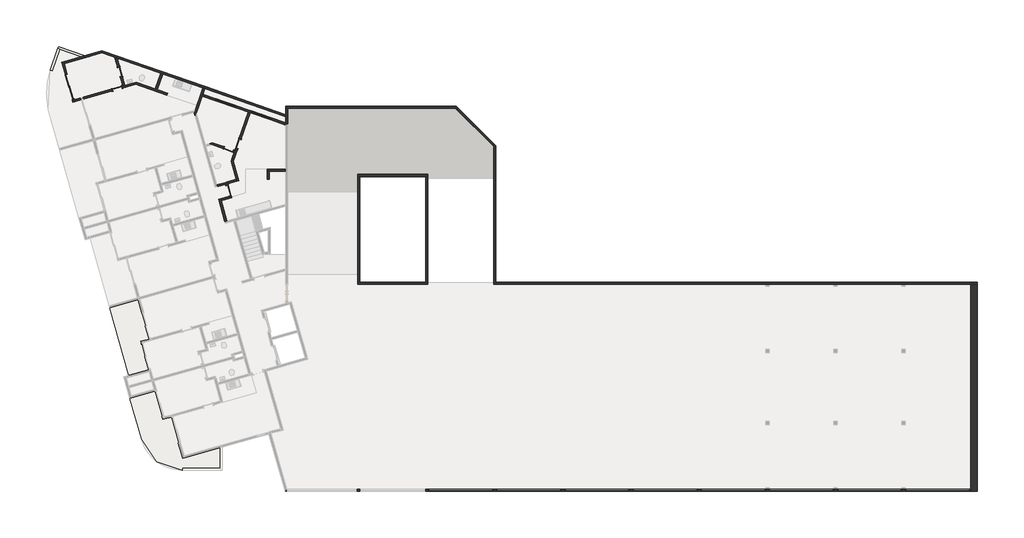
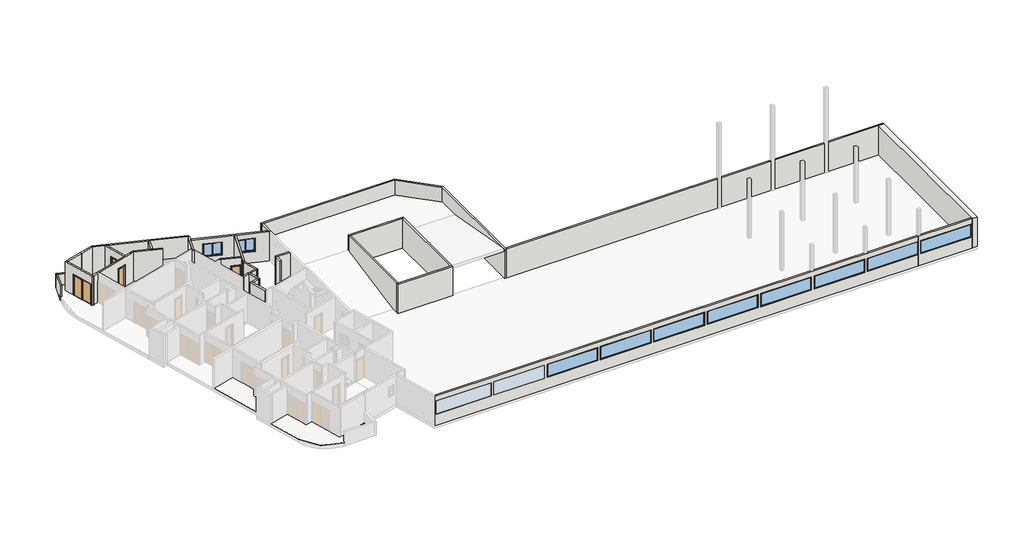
# One storey, part 3 of 4: 35 walls, 10 windows, 6 doors, 2 slabs.
"""IFC4 building model written with IfcOpenShell, lengths in millimetres."""

from ifc_helpers import new_model, si_unit, point, frame, frame_2d, origin, place, context, project, spatial, polyline, circle_curve, trimmed, segment, composite_curve, outline, extrude, faceted_brep, transform, mapped, element, save
from components import p2_80cm_9d4be4ef, p3_70cm_ef4d15e3, p3_70cm_0a698c7c, p4_correr_200cm_eaaa0877, jx_160cm_e9e36a0c, m_fixo1_jf_4_75m_a83b1cd6

model = new_model("IFC4")

# Units and contexts
model_context = context("Model", 3, world=origin())
ifc_project = project(units=[si_unit("LENGTHUNIT", "METRE", prefix="MILLI")], contexts=[model_context])

# Site, building, storey
site = spatial("IfcSite", under=ifc_project)
building = spatial("IfcBuilding", under=site)
storey = spatial("IfcBuildingStorey", under=building, Name="Garagem 3", Elevation=42050.0)

# Doors
placement = place(None, origin())
p2_80cm_shape = p2_80cm_9d4be4ef(model_context)
element("IfcDoor", 1, ObjectType="M_Folha única1 : P2 - 80CM", at=placement, inside=storey, context=model_context, shape_type="MappedRepresentation", body=[
    mapped(p2_80cm_shape, transform((-79349.4097406, 25479.1041247, 42050.0), x_axis=(-0.27176796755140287, 0.962362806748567, 0.0), y_axis=(-0.962362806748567, -0.27176796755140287, 0.0), z_axis=(0.0, 0.0, 1.0))),
])
p3_70cm_shape = p3_70cm_ef4d15e3(model_context)
element("IfcDoor", 2, ObjectType="M_Folha única1 : P3 - 70CM", at=placement, inside=storey, context=model_context, shape_type="MappedRepresentation", body=[
    mapped(p3_70cm_shape, transform((-87513.806232, 32980.5300491, 42050.0), x_axis=(0.9623628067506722, 0.2717679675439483, 0.0), y_axis=(-0.2717679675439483, 0.9623628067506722, 0.0), z_axis=(0.0, 0.0, 1.0))),
])
p3_70cm_2_shape = p3_70cm_0a698c7c(model_context)
element("IfcDoor", 3, ObjectType="M_Folha única1 : P3 - 70CM", at=placement, inside=storey, context=model_context, shape_type="MappedRepresentation", body=[
    mapped(p3_70cm_2_shape, transform((-87314.304722, 34205.8663896, 42050.0), x_axis=(-0.2717679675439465, 0.9623628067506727, 0.0), y_axis=(-0.9623628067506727, -0.2717679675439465, 0.0), z_axis=(0.0, 0.0, 1.0))),
])
element("IfcDoor", 4, ObjectType="M_Folha única1 : P3 - 70CM", at=placement, inside=storey, context=model_context, shape_type="MappedRepresentation", body=[
    mapped(p3_70cm_2_shape, transform((-79346.1223746, 28509.6973665, 42050.0), x_axis=(0.9449109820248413, -0.32732741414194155, 0.0), y_axis=(0.32732741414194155, 0.9449109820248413, 0.0), z_axis=(0.0, 0.0, 1.0))),
])
element("IfcDoor", 5, ObjectType="M_Folha única1 : P3 - 70CM", at=placement, inside=storey, context=model_context, shape_type="MappedRepresentation", body=[
    mapped(p3_70cm_2_shape, transform((-78626.5662556, 28921.8732895, 42050.0), x_axis=(-0.32732741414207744, -0.9449109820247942, 0.0), y_axis=(0.9449109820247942, -0.32732741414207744, 0.0), z_axis=(0.0, 0.0, 1.0))),
])
p4_correr_200cm_shape = p4_correr_200cm_eaaa0877(model_context)
element("IfcDoor", 6, ObjectType="Porta de correr dupla envidraçada sem revestimento : P4 - CORRER - 200CM", at=placement, inside=storey, context=model_context, shape_type="MappedRepresentation", body=[
    mapped(p4_correr_200cm_shape, transform((-91005.8131296, 33111.4415743, 42050.0), x_axis=(0.2717679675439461, -0.9623628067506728, 0.0), y_axis=(0.9623628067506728, 0.2717679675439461, 0.0), z_axis=(0.0, 0.0, 1.0))),
])

# Slabs
element("IfcSlab", 7, ObjectType="TZ_Piso de Áreas Molhadas", at=placement, inside=storey, context=model_context, shape_type="SweptSolid", body=[
    extrude(outline(composite_curve([segment(polyline([(-79945.4990038, 5119.4122055), (-82713.5540687, 5119.4122055), (-82713.5540687, 4969.4122055), (-82751.3896972, 4969.4122055)]), True, "CONTINUOUS"), segment(trimmed(circle_curve(frame_2d((-82751.3896972, 8069.4122055)), 3100.0), [point((-82751.3896972, 4969.4122055))], [point((-85734.7143981, 7226.9315061))], False, "CARTESIAN"), True, "CONTINUOUS"), segment(polyline([(-85734.7143981, 7226.9315061), (-86588.8282733, 10251.4506708), (-84772.9735093, 10764.2419177), (-84188.6722855, 8695.1618243), (-83566.957766, 8870.7319029), (-82710.8885369, 5839.2889958), (-79945.4990038, 6620.2256515), (-79945.4990038, 5119.4122055)]), True, "CONTINUOUS")], self_intersect=False)), frame((0.0, 0.0, 42050.0), z_axis=(0.0, 0.0, 1.0), x_axis=(1.0, 0.0, 0.0)), (0.0, 0.0, 1.0), 20.0),
])
element("IfcSlab", 8, ObjectType="TZ_Piso de Áreas Molhadas", at=placement, inside=storey, context=model_context, shape_type="SweptSolid", body=[
    extrude(outline(polyline([(-85183.9771729, 14596.790603), (-85805.6917697, 14421.2205257), (-85221.3906395, 12352.1404912), (-86668.7560772, 11943.4094383), (-88068.36111, 16899.5778931), (-85999.2810755, 17483.8790233), (-85183.9771729, 14596.790603)])), frame((0.0, 0.0, 42050.0), z_axis=(0.0, 0.0, 1.0), x_axis=(1.0, 0.0, 0.0)), (0.0, 0.0, 1.0), 20.0),
])

# Walls
element("IfcWall", 9, ObjectType="Básica .15 - Externa", at=placement, inside=storey, context=model_context, shape_type="Brep", body=[
    faceted_brep([(-88662.6343714, 35591.588263, 42050.0), (-87688.240739, 35254.0477389, 42050.0), (-87515.4733556, 35194.1992432, 42050.0), (-84326.6881589, 34089.5694606, 42050.0), (-84184.9515116, 34040.4703485, 42050.0), (-81226.8582774, 33015.7547641, 42050.0), (-81156.3583355, 32991.3328194, 42050.0), (-81156.3583355, 32991.3328194, 43350.0), (-81085.1216301, 32966.655652, 43350.0), (-81085.1216301, 32966.655652, 44650.0), (-81156.3583355, 32991.3328194, 44650.0), (-81156.3583355, 32991.3328194, 44950.0), (-81226.8582774, 33015.7547641, 44950.0), (-84184.9515116, 34040.4703485, 44950.0), (-84326.6881589, 34089.5694606, 44950.0), (-87515.4733556, 35194.1992432, 44950.0), (-87688.240739, 35254.0477389, 44950.0), (-88662.6343714, 35591.588263, 44950.0), (-88658.0562773, 35748.7474739, 42050.0), (-88658.0562773, 35748.7474739, 44950.0), (-81107.2592234, 33133.0694667, 44950.0), (-81107.2592234, 33133.0694667, 44650.0), (-81036.022518, 33108.3922993, 44650.0), (-81036.022518, 33108.3922993, 43350.0), (-81107.2592234, 33133.0694667, 43350.0), (-81107.2592234, 33133.0694667, 42050.0)], [[[0, 1, 2, 3, 4, 5, 6, 7, 8, 9, 10, 11, 12, 13, 14, 15, 16, 17]], [[18, 19, 20, 21, 22, 23, 24, 25]], [[6, 5, 4, 3, 2, 1, 0, 18, 25]], [[17, 16, 15, 14, 13, 12, 11, 20, 19]], [[0, 17, 19, 18]], [[7, 6, 25, 24]], [[23, 8, 7, 24]], [[11, 10, 21, 20]], [[21, 10, 9, 22]], [[9, 8, 23, 22]]]),
])
element("IfcWall", 10, ObjectType="Básica .15 -  Interna", at=placement, inside=storey, context=model_context, shape_type="Brep", body=[
    faceted_brep([(-81789.2550074, 30934.0017027, 42050.0), (-81703.3880158, 31181.8778654, 42050.0), (-81272.8781344, 32424.6503839, 42050.0), (-81223.7790223, 32566.3870312, 42050.0), (-81085.1216301, 32966.655652, 42050.0), (-81085.1216301, 32966.655652, 43350.0), (-81085.1216301, 32966.655652, 44650.0), (-81085.1216301, 32966.655652, 44950.0), (-81223.7790223, 32566.3870312, 44950.0), (-81272.8781344, 32424.6503839, 44950.0), (-81703.3880158, 31181.8778654, 44950.0), (-81789.2550074, 30934.0017027, 44950.0), (-81860.5472267, 31186.4559595, 42050.0), (-81860.5472267, 31186.4559595, 44950.0), (-81845.4155775, 31230.1371819, 44950.0), (-81785.5670817, 31402.9045654, 44950.0), (-81226.8582774, 33015.7547641, 44950.0), (-81226.8582774, 33015.7547641, 42050.0), (-81785.5670817, 31402.9045654, 42050.0), (-81845.4155775, 31230.1371819, 42050.0), (-81156.3583355, 32991.3328194, 42050.0), (-81156.3583355, 32991.3328194, 44950.0)], [[[0, 1, 2, 3, 4, 5, 6, 7, 8, 9, 10, 11]], [[12, 13, 14, 15, 16, 17, 18, 19]], [[4, 3, 2, 1, 0, 12, 19, 18, 17, 20]], [[11, 10, 9, 8, 7, 21, 16, 15, 14, 13]], [[0, 11, 13, 12]], [[4, 20, 17, 16, 21, 7, 6, 5]]]),
])
element("IfcWall", 11, ObjectType="Básica .15 -  Interna", at=placement, inside=storey, context=model_context, shape_type="Brep", body=[
    faceted_brep([(-91449.9950574, 34960.3135045, 44950.0), (-91409.2298622, 34815.9590835, 44950.0), (-90661.8679515, 32169.4613651, 44950.0), (-90621.1027564, 32025.1069441, 44950.0), (-90621.1027564, 32025.1069441, 42050.0), (-90661.8679515, 32169.4613651, 42050.0), (-90661.8679515, 32169.4613651, 44150.0), (-91205.4038866, 34094.1869786, 44150.0), (-91205.4038866, 34094.1869786, 42050.0), (-91409.2298622, 34815.9590835, 42050.0), (-91449.9950574, 34960.3135045, 42050.0), (-90765.4571774, 31984.341749, 44950.0), (-91594.3494784, 34919.5483093, 44950.0), (-91594.3494784, 34919.5483093, 42050.0), (-91349.7583076, 34053.4217835, 42050.0), (-91349.7583076, 34053.4217835, 44150.0), (-90806.2223725, 32128.69617, 44150.0), (-90806.2223725, 32128.69617, 42050.0), (-90765.4571774, 31984.341749, 42050.0)], [[[0, 1, 2, 3, 4, 5, 6, 7, 8, 9, 10]], [[11, 12, 13, 14, 15, 16, 17, 18]], [[4, 18, 17, 5]], [[13, 10, 9, 8, 14]], [[3, 2, 1, 0, 12, 11]], [[4, 3, 11, 18]], [[16, 6, 5, 17]], [[6, 16, 15, 7]], [[7, 15, 14, 8]], [[0, 10, 13, 12]]]),
])
element("IfcWall", 12, ObjectType="Básica .15 - Externa", at=placement, inside=storey, context=model_context, shape_type="Brep", body=[
    faceted_brep([(-91871.4376954, 35923.0920443, 41750.0), (-91729.7010481, 35873.9929322, 41750.0), (-90151.0501028, 35327.1311202, 41750.0), (-90151.0501028, 35327.1311202, 43150.0), (-91729.7010481, 35873.9929322, 43150.0), (-91871.4376954, 35923.0920443, 43150.0), (-91822.3385833, 36064.8286916, 41750.0), (-91822.3385833, 36064.8286916, 43150.0), (-89898.595846, 35398.4233395, 43150.0), (-89898.595846, 35398.4233395, 41750.0)], [[[0, 1, 2, 3, 4, 5]], [[6, 7, 8, 9]], [[2, 1, 0, 6, 9]], [[5, 4, 3, 8, 7]], [[0, 5, 7, 6]], [[3, 2, 9, 8]]]),
])
element("IfcWall", 13, ObjectType="Básica .15 - Externa", at=placement, inside=storey, context=model_context, shape_type="SweptSolid", body=[
    extrude(outline(polyline([(-91729.7010481, 35873.9929322), (-92280.2794148, 34284.6132387), (-92422.0160621, 34333.7123509), (-91871.4376954, 35923.0920443), (-91729.7010481, 35873.9929322)])), frame((0.0, 0.0, 41750.0), z_axis=(0.0, 0.0, 1.0), x_axis=(1.0, 0.0, 0.0)), (0.0, 0.0, 1.0), 1400.0),
])
element("IfcWall", 14, ObjectType="Básica .15 -  Interna", at=placement, inside=storey, context=model_context, shape_type="Brep", body=[
    faceted_brep([(-80073.6755954, 24858.9302618, 42050.0), (-79611.6700506, 23222.9134903, 42050.0), (-79611.6700506, 23222.9134903, 44950.0), (-80073.6755954, 24858.9302618, 44950.0), (-79929.3211744, 24899.695457, 42050.0), (-79929.3211744, 24899.695457, 44950.0), (-79888.5559793, 24755.3410359, 44950.0), (-79467.3156296, 23263.6786855, 44950.0), (-79467.3156296, 23263.6786855, 42050.0), (-79888.5559793, 24755.3410359, 42050.0)], [[[0, 1, 2, 3]], [[4, 5, 6, 7, 8, 9]], [[1, 0, 4, 9, 8]], [[3, 2, 7, 6, 5]], [[0, 3, 5, 4]], [[2, 1, 8, 7]]]),
])
element("IfcWall", 15, ObjectType="Básica .15 -  Interna", at=placement, inside=storey, context=model_context, shape_type="Brep", body=[
    faceted_brep([(-79888.5559793, 24755.3410359, 42050.0), (-79272.1145689, 24929.4219834, 42050.0), (-79272.1145689, 24929.4219834, 44950.0), (-79888.5559793, 24755.3410359, 44950.0), (-79929.3211744, 24899.695457, 42050.0), (-79929.3211744, 24899.695457, 44950.0), (-79312.8797641, 25073.7764044, 44950.0), (-79312.8797641, 25073.7764044, 44150.0), (-79312.8797641, 25073.7764044, 42050.0)], [[[0, 1, 2, 3]], [[4, 5, 6, 7, 8]], [[1, 0, 4, 8]], [[3, 2, 6, 5]], [[0, 3, 5, 4]], [[2, 1, 8, 7, 6]]]),
])
element("IfcWall", 16, ObjectType="Básica .15 -  Interna", at=placement, inside=storey, context=model_context, shape_type="Brep", body=[
    faceted_brep([(-79598.23613, 26084.2573515, 42050.0), (-79557.4709349, 25939.9029305, 42050.0), (-79530.2941381, 25843.6666498, 42050.0), (-79530.2941381, 25843.6666498, 44150.0), (-79312.8797641, 25073.7764044, 44150.0), (-79312.8797641, 25073.7764044, 42050.0), (-79272.1145689, 24929.4219834, 42050.0), (-79272.1145689, 24929.4219834, 44950.0), (-79312.8797641, 25073.7764044, 44950.0), (-79557.4709349, 25939.9029305, 44950.0), (-79598.23613, 26084.2573515, 44950.0), (-79385.9397171, 25884.4318449, 44150.0), (-79385.9397171, 25884.4318449, 42050.0), (-79413.1165138, 25980.6681256, 42050.0), (-79453.881709, 26125.0225466, 42050.0), (-79453.881709, 26125.0225466, 44950.0), (-79413.1165138, 25980.6681256, 44950.0), (-79127.7601479, 24970.1871785, 44950.0), (-79127.7601479, 24970.1871785, 42050.0), (-79168.5253431, 25114.5415995, 42050.0), (-79168.5253431, 25114.5415995, 44150.0)], [[[0, 1, 2, 3, 4, 5, 6, 7, 8, 9, 10]], [[11, 12, 13, 14, 15, 16, 17, 18, 19, 20]], [[19, 18, 6, 5]], [[14, 13, 12, 2, 1, 0]], [[10, 9, 8, 7, 17, 16, 15]], [[7, 6, 18, 17]], [[0, 10, 15, 14]], [[3, 2, 12, 11]], [[4, 3, 11, 20]], [[5, 4, 20, 19]]]),
])
element("IfcWall", 17, ObjectType="Básica .15 - Externa", at=placement, inside=storey, context=model_context, shape_type="SweptSolid", body=[
    extrude(outline(polyline([(-89921.2674906, 35392.0209445), (-88658.0562773, 35748.7474739), (-88662.6343714, 35591.588263), (-89880.5022955, 35247.6665235), (-89921.2674906, 35392.0209445)])), frame((0.0, 0.0, 42050.0), z_axis=(0.0, 0.0, 1.0), x_axis=(1.0, 0.0, 0.0)), (0.0, 0.0, 1.0), 2900.0),
])
element("IfcWall", 18, ObjectType="Básica .15 -  Interna", at=placement, inside=storey, context=model_context, shape_type="Brep", body=[
    faceted_brep([(-90184.5077758, 32304.2662473, 42050.0), (-90661.8679515, 32169.4613651, 42050.0), (-90661.8679515, 32169.4613651, 44150.0), (-90661.8679515, 32169.4613651, 44950.0), (-90184.5077758, 32304.2662473, 44950.0), (-90143.7425806, 32159.9118263, 42050.0), (-90143.7425806, 32159.9118263, 44150.0), (-90143.7425806, 32159.9118263, 44950.0), (-90621.1027564, 32025.1069441, 44950.0), (-90621.1027564, 32025.1069441, 42050.0)], [[[0, 1, 2, 3, 4]], [[5, 6, 7, 8, 9]], [[1, 0, 5, 9]], [[4, 3, 8, 7]], [[0, 4, 7, 6, 5]], [[3, 2, 1, 9, 8]]]),
])
element("IfcWall", 19, ObjectType="Básica .15 -  Interna", at=placement, inside=storey, context=model_context, shape_type="SweptSolid", body=[
    extrude(outline(polyline([(-79557.4709349, 25939.9029305), (-80173.9123452, 25765.821983), (-80214.6775403, 25910.176404), (-79598.23613, 26084.2573515), (-79557.4709349, 25939.9029305)])), frame((0.0, 0.0, 42050.0), z_axis=(0.0, 0.0, 1.0), x_axis=(1.0, 0.0, 0.0)), (0.0, 0.0, 1.0), 2900.0),
])
element("IfcWall", 20, ObjectType="Básica .15 -  Interna", at=placement, inside=storey, context=model_context, shape_type="Brep", body=[
    faceted_brep([(-81272.8781344, 32424.6503839, 42050.0), (-77897.5766162, 31255.4093243, 42050.0), (-77755.8399689, 31206.3102121, 42050.0), (-75147.8282189, 30302.8666514, 42050.0), (-75147.8282189, 30302.8666514, 44950.0), (-77755.8399689, 31206.3102121, 44950.0), (-77897.5766162, 31255.4093243, 44950.0), (-81272.8781344, 32424.6503839, 44950.0), (-78829.2985897, 31578.1679228, 43150.0), (-80341.1561609, 32101.8917854, 43150.0), (-80341.1561609, 32101.8917854, 44450.0), (-78829.2985897, 31578.1679228, 44450.0), (-76243.9823976, 30682.5863495, 43150.0), (-77755.8399689, 31206.3102121, 43150.0), (-77755.8399689, 31206.3102121, 44450.0), (-76243.9823976, 30682.5863495, 44450.0), (-81223.7790223, 32566.3870312, 42050.0), (-81223.7790223, 32566.3870312, 44950.0), (-75147.8282189, 30461.6117638, 44950.0), (-75147.8282189, 30461.6117638, 42050.0), (-78780.1994776, 31719.9045701, 43150.0), (-78780.1994776, 31719.9045701, 44450.0), (-80292.0570488, 32243.6284327, 44450.0), (-80292.0570488, 32243.6284327, 43150.0), (-76194.8832855, 30824.3229968, 43150.0), (-76194.8832855, 30824.3229968, 44450.0), (-77706.7408568, 31348.0468595, 44450.0), (-77706.7408568, 31348.0468595, 43150.0), (-75147.8282189, 30356.258394, 42050.0), (-75147.8282189, 30356.258394, 44950.0)], [[[0, 1, 2, 3, 4, 5, 6, 7], [8, 9, 10, 11], [12, 13, 14, 15]], [[16, 17, 18, 19], [20, 21, 22, 23], [24, 25, 26, 27]], [[3, 2, 1, 0, 16, 19, 28]], [[7, 6, 5, 4, 29, 18, 17]], [[0, 7, 17, 16]], [[21, 20, 8, 11]], [[22, 21, 11, 10]], [[23, 22, 10, 9]], [[20, 23, 9, 8]], [[25, 24, 12, 15]], [[26, 25, 15, 14]], [[27, 26, 14, 13]], [[24, 27, 13, 12]], [[4, 3, 28, 19, 18, 29]]]),
])
element("IfcWall", 21, ObjectType="Básica .15 - Externa", at=placement, inside=storey, context=model_context, shape_type="Brep", body=[
    faceted_brep([(-81156.3583355, 32991.3328194, 43350.0), (-81156.3583355, 32991.3328194, 42050.0), (-81156.3583355, 32991.3328194, 41750.0), (-81085.1216301, 32966.655652, 41750.0), (-75147.8282189, 30909.9128092, 41750.0), (-75147.8282189, 30909.9128092, 43350.0), (-81085.1216301, 32966.655652, 43350.0), (-81107.2592234, 33133.0694667, 41750.0), (-81107.2592234, 33133.0694667, 42050.0), (-81107.2592234, 33133.0694667, 43350.0), (-81036.022518, 33108.3922993, 43350.0), (-75147.8282189, 31068.6579216, 43350.0), (-75147.8282189, 31068.6579216, 41750.0), (-81036.022518, 33108.3922993, 41750.0)], [[[0, 1, 2, 3, 4, 5, 6]], [[7, 8, 9, 10, 11, 12, 13]], [[4, 3, 2, 7, 13, 12]], [[0, 6, 5, 11, 10, 9]], [[0, 9, 8, 7, 2, 1]], [[4, 12, 11, 5]]]),
])
element("IfcWall", 22, ObjectType="Básica .15 -  Interna", at=placement, inside=storey, context=model_context, shape_type="SweptSolid", body=[
    extrude(outline(polyline([(-91449.9950574, 34960.3135045), (-89921.2674906, 35392.0209445), (-89880.5022955, 35247.6665235), (-91409.2298622, 34815.9590835), (-91449.9950574, 34960.3135045)])), frame((0.0, 0.0, 42050.0), z_axis=(0.0, 0.0, 1.0), x_axis=(1.0, 0.0, 0.0)), (0.0, 0.0, 1.0), 2900.0),
])
element("IfcWall", 23, ObjectType="Básica .15 -  Interna", at=placement, inside=storey, context=model_context, shape_type="Brep", body=[
    faceted_brep([(-83821.815623, 32644.7152387, 42050.0), (-84577.7444086, 32906.57717, 42050.0), (-84719.4810559, 32955.6762822, 42050.0), (-86137.8721095, 33447.0223292, 42050.0), (-86137.8721095, 33447.0223292, 44950.0), (-84719.4810559, 32955.6762822, 44950.0), (-84577.7444086, 32906.57717, 44950.0), (-83821.815623, 32644.7152387, 44950.0), (-83870.9147351, 32502.9785914, 42050.0), (-83870.9147351, 32502.9785914, 44950.0), (-86142.4502035, 33289.8631183, 44950.0), (-86390.3263662, 33375.7301099, 44950.0), (-86390.3263662, 33375.7301099, 42050.0), (-86142.4502035, 33289.8631183, 42050.0)], [[[0, 1, 2, 3, 4, 5, 6, 7]], [[8, 9, 10, 11, 12, 13]], [[3, 2, 1, 0, 8, 13, 12]], [[7, 6, 5, 4, 11, 10, 9]], [[0, 7, 9, 8]], [[4, 3, 12, 11]]]),
])
element("IfcWall", 24, ObjectType="Básica .15 -  Interna", at=placement, inside=storey, context=model_context, shape_type="Brep", body=[
    faceted_brep([(-86390.3263662, 33375.7301099, 42050.0), (-86956.7711455, 33215.7680402, 42050.0), (-87101.1255666, 33175.002845, 42050.0), (-87197.3618472, 33147.8260483, 42050.0), (-87197.3618472, 33147.8260483, 44150.0), (-87871.015812, 32957.588471, 44150.0), (-87871.015812, 32957.588471, 42050.0), (-90040.1533547, 32345.0314424, 42050.0), (-90040.1533547, 32345.0314424, 44950.0), (-87101.1255666, 33175.002845, 44950.0), (-86956.7711455, 33215.7680402, 44950.0), (-86390.3263662, 33375.7301099, 44950.0), (-87156.5966521, 33003.4716273, 44150.0), (-87156.5966521, 33003.4716273, 42050.0), (-86142.4502035, 33289.8631183, 42050.0), (-86142.4502035, 33289.8631183, 44950.0), (-89999.3881596, 32200.6770214, 44950.0), (-89999.3881596, 32200.6770214, 44150.0), (-89999.3881596, 32200.6770214, 42050.0), (-87830.2506168, 32813.23405, 42050.0), (-87830.2506168, 32813.23405, 44150.0)], [[[0, 1, 2, 3, 4, 5, 6, 7, 8, 9, 10, 11]], [[12, 13, 14, 15, 16, 17, 18, 19, 20]], [[19, 18, 7, 6]], [[14, 13, 3, 2, 1, 0]], [[11, 10, 9, 8, 16, 15]], [[4, 3, 13, 12]], [[5, 4, 12, 20]], [[6, 5, 20, 19]], [[0, 11, 15, 14]], [[8, 7, 18, 17, 16]]]),
])
element("IfcWall", 25, ObjectType="Básica .15 -  Interna", at=placement, inside=storey, context=model_context, shape_type="SweptSolid", body=[
    extrude(outline(polyline([(-84184.9515116, 34040.4703485), (-84577.7444086, 32906.57717), (-84719.4810559, 32955.6762822), (-84326.6881589, 34089.5694606), (-84184.9515116, 34040.4703485)])), frame((0.0, 0.0, 42050.0), z_axis=(0.0, 0.0, 1.0), x_axis=(1.0, 0.0, 0.0)), (0.0, 0.0, 1.0), 2900.0),
])
element("IfcWall", 26, ObjectType="Básica .15 -  Interna", at=placement, inside=storey, context=model_context, shape_type="Brep", body=[
    faceted_brep([(-87337.2463001, 34563.0759696, 44150.0), (-87337.2463001, 34563.0759696, 42050.0), (-87515.4733556, 35194.1992432, 42050.0), (-87515.4733556, 35194.1992432, 44950.0), (-86956.7711455, 33215.7680402, 44950.0), (-86956.7711455, 33215.7680402, 42050.0), (-87147.0087228, 33889.4220048, 42050.0), (-87147.0087228, 33889.4220048, 44150.0), (-87688.240739, 35254.0477389, 42050.0), (-87481.6007211, 34522.3107744, 42050.0), (-87481.6007211, 34522.3107744, 44150.0), (-87291.3631438, 33848.6568097, 44150.0), (-87291.3631438, 33848.6568097, 42050.0), (-87101.1255666, 33175.002845, 42050.0), (-87101.1255666, 33175.002845, 44950.0), (-87688.240739, 35254.0477389, 44950.0)], [[[0, 1, 2, 3, 4, 5, 6, 7]], [[8, 9, 10, 11, 12, 13, 14, 15]], [[6, 5, 13, 12]], [[2, 1, 9, 8]], [[4, 3, 15, 14]], [[10, 9, 1, 0]], [[11, 10, 0, 7]], [[12, 11, 7, 6]], [[5, 4, 14, 13]], [[3, 2, 8, 15]]]),
])
element("IfcWall", 27, ObjectType="Básica .15 -  Interna", at=placement, inside=storey, context=model_context, shape_type="Brep", body=[
    faceted_brep([(-76493.6479314, 26910.8243598, 42050.0), (-76343.6479314, 26910.8243598, 42050.0), (-75147.8282189, 26910.8243598, 42050.0), (-75147.8282189, 26910.8243598, 44950.0), (-76343.6479314, 26910.8243598, 44950.0), (-76493.6479314, 26910.8243598, 44950.0), (-76493.6479314, 27060.8243598, 42050.0), (-76493.6479314, 27060.8243598, 44950.0), (-75147.8282189, 27060.8243598, 44950.0), (-75147.8282189, 27060.8243598, 42050.0)], [[[0, 1, 2, 3, 4, 5]], [[6, 7, 8, 9]], [[2, 1, 0, 6, 9]], [[5, 4, 3, 8, 7]], [[0, 5, 7, 6]], [[3, 2, 9, 8]]]),
])
element("IfcWall", 28, ObjectType="Básica .15 -  Interna", at=placement, inside=storey, context=model_context, shape_type="SweptSolid", body=[
    extrude(outline(polyline([(-76343.6479314, 26910.8243598), (-76343.6479314, 26310.8243598), (-76493.6479314, 26310.8243598), (-76493.6479314, 26910.8243598), (-76343.6479314, 26910.8243598)])), frame((0.0, 0.0, 42050.0), z_axis=(0.0, 0.0, 1.0), x_axis=(1.0, 0.0, 0.0)), (0.0, 0.0, 1.0), 2900.0),
])
element("IfcWall", 29, ObjectType="Básica .15 -  Interna", at=placement, inside=storey, context=model_context, shape_type="Brep", body=[
    faceted_brep([(-78877.464657, 28426.7218055, 42050.0), (-78990.8539749, 28466.0010952, 42050.0), (-78990.8539749, 28466.0010952, 44150.0), (-79652.2916623, 28695.1302851, 44150.0), (-79652.2916623, 28695.1302851, 42050.0), (-80525.6718652, 28997.6786614, 42050.0), (-80525.6718652, 28997.6786614, 44950.0), (-78877.464657, 28426.7218055, 44950.0), (-79039.953087, 28324.2644479, 44150.0), (-79039.953087, 28324.2644479, 42050.0), (-78926.5637691, 28284.9851582, 42050.0), (-78926.5637691, 28284.9851582, 44950.0), (-80530.2499593, 28840.5194505, 44950.0), (-80778.126122, 28926.3864421, 44950.0), (-80778.126122, 28926.3864421, 42050.0), (-80530.2499593, 28840.5194505, 42050.0), (-79701.3907744, 28553.3936378, 42050.0), (-79701.3907744, 28553.3936378, 44150.0)], [[[0, 1, 2, 3, 4, 5, 6, 7]], [[8, 9, 10, 11, 12, 13, 14, 15, 16, 17]], [[10, 9, 1, 0]], [[16, 15, 14, 5, 4]], [[7, 6, 13, 12, 11]], [[2, 1, 9, 8]], [[3, 2, 8, 17]], [[4, 3, 17, 16]], [[6, 5, 14, 13]], [[0, 7, 11, 10]]]),
])
element("IfcWall", 30, ObjectType="Básica .15 -  Interna", at=placement, inside=storey, context=model_context, shape_type="Brep", body=[
    faceted_brep([(-79146.9727346, 27648.7205404, 42050.0), (-78771.1333302, 26317.8283554, 42050.0), (-78730.3681351, 26173.4739343, 42050.0), (-78730.3681351, 26173.4739343, 44950.0), (-78771.1333302, 26317.8283554, 44950.0), (-79146.9727346, 27648.7205404, 44950.0), (-79061.105743, 27896.5967032, 42050.0), (-79061.105743, 27896.5967032, 44950.0), (-78989.8135237, 27644.1424464, 44950.0), (-78586.013714, 26214.2391295, 44950.0), (-78586.013714, 26214.2391295, 42050.0), (-78989.8135237, 27644.1424464, 42050.0)], [[[0, 1, 2, 3, 4, 5]], [[6, 7, 8, 9, 10, 11]], [[2, 1, 0, 6, 11, 10]], [[5, 4, 3, 9, 8, 7]], [[0, 5, 7, 6]], [[3, 2, 10, 9]]]),
])
element("IfcWall", 31, ObjectType="Básica .15 -  Interna", at=placement, inside=storey, context=model_context, shape_type="Brep", body=[
    faceted_brep([(-78811.9991742, 28615.7040019, 44150.0), (-78811.9991742, 28615.7040019, 42050.0), (-78877.464657, 28426.7218055, 42050.0), (-78926.5637691, 28284.9851582, 42050.0), (-79061.105743, 27896.5967032, 42050.0), (-79061.105743, 27896.5967032, 44950.0), (-78926.5637691, 28284.9851582, 44950.0), (-78877.464657, 28426.7218055, 44950.0), (-77897.5766162, 31255.4093243, 44950.0), (-77897.5766162, 31255.4093243, 42050.0), (-78582.8699843, 29277.1416893, 42050.0), (-78582.8699843, 29277.1416893, 44150.0), (-78989.8135237, 27644.1424464, 42050.0), (-78670.2625269, 28566.6048898, 42050.0), (-78670.2625269, 28566.6048898, 44150.0), (-78441.133337, 29228.0425772, 44150.0), (-78441.133337, 29228.0425772, 42050.0), (-77755.8399689, 31206.3102121, 42050.0), (-77755.8399689, 31206.3102121, 43150.0), (-77755.8399689, 31206.3102121, 44450.0), (-77755.8399689, 31206.3102121, 44950.0), (-78989.8135237, 27644.1424464, 44950.0)], [[[0, 1, 2, 3, 4, 5, 6, 7, 8, 9, 10, 11]], [[12, 13, 14, 15, 16, 17, 18, 19, 20, 21]], [[10, 9, 17, 16]], [[4, 3, 2, 1, 13, 12]], [[8, 7, 6, 5, 21, 20]], [[14, 13, 1, 0]], [[15, 14, 0, 11]], [[16, 15, 11, 10]], [[5, 4, 12, 21]], [[9, 8, 20, 19, 18, 17]]]),
])
element("IfcWall", 32, ObjectType="Básica .15 -  Interna", at=placement, inside=storey, context=model_context, shape_type="SweptSolid", body=[
    extrude(outline(polyline([(-78730.3681351, 26173.4739343), (-79413.1165138, 25980.6681256), (-79453.881709, 26125.0225466), (-78771.1333302, 26317.8283554), (-78730.3681351, 26173.4739343)])), frame((0.0, 0.0, 42050.0), z_axis=(0.0, 0.0, 1.0), x_axis=(1.0, 0.0, 0.0)), (0.0, 0.0, 1.0), 2900.0),
])
element("IfcWall", 33, ObjectType="Básica .15 - Externa", at=placement, inside=storey, context=model_context, shape_type="Brep", body=[
    faceted_brep([(-59878.6137209, 28940.3430413, 42050.0), (-59878.6137209, 28729.2690021, 42050.0), (-59878.6137209, 18602.5140353, 42050.0), (-59878.6137209, 18602.5140353, 44950.0), (-59878.6137209, 28729.2690021, 44950.0), (-59878.6137209, 28940.3430413, 44950.0), (-59728.6137209, 28791.8430413, 42050.0), (-59728.6137209, 28791.8430413, 44950.0), (-59728.6137209, 18752.5140353, 44950.0), (-59728.6137209, 18602.5140353, 44950.0), (-59728.6137209, 18602.5140353, 42050.0), (-59728.6137209, 18752.5140353, 42050.0)], [[[0, 1, 2, 3, 4, 5]], [[6, 7, 8, 9, 10, 11]], [[2, 1, 0, 6, 11, 10]], [[5, 4, 3, 9, 8, 7]], [[0, 5, 7, 6]], [[3, 2, 10, 9]]]),
])
element("IfcWall", 34, ObjectType="Básica .15 - Externa", at=placement, inside=storey, context=model_context, shape_type="Brep", body=[
    faceted_brep([(-75147.8282189, 31523.8506069, 42050.0), (-74997.8282189, 31523.8506069, 42050.0), (-62701.4234226, 31523.8506069, 42050.0), (-62488.2173225, 31523.8506069, 42050.0), (-62488.2173225, 31523.8506069, 44950.0), (-62701.4234226, 31523.8506069, 44950.0), (-74997.8282189, 31523.8506069, 44950.0), (-75147.8282189, 31523.8506069, 44950.0), (-75147.8282189, 31673.8506069, 42050.0), (-75147.8282189, 31673.8506069, 44950.0), (-62639.732474, 31673.8506069, 44950.0), (-62639.732474, 31673.8506069, 42050.0)], [[[0, 1, 2, 3, 4, 5, 6, 7]], [[8, 9, 10, 11]], [[3, 2, 1, 0, 8, 11]], [[7, 6, 5, 4, 10, 9]], [[4, 3, 11, 10]], [[0, 7, 9, 8]]]),
])
element("IfcWall", 35, ObjectType="Básica .15 - Externa", at=placement, inside=storey, context=model_context, shape_type="SweptSolid", body=[
    extrude(outline(polyline([(-59878.6137209, 28729.2690021), (-62701.4234226, 31523.8506069), (-62488.2173225, 31523.8506069), (-59878.6137209, 28940.3430413), (-59878.6137209, 28729.2690021)])), frame((0.0, 0.0, 42050.0), z_axis=(0.0, 0.0, 1.0), x_axis=(1.0, 0.0, 0.0)), (0.0, 0.0, 1.0), 2900.0),
])
element("IfcWall", 36, ObjectType="Básica .15 - Externa", at=placement, inside=storey, context=model_context, shape_type="Brep", body=[
    faceted_brep([(-24378.6137209, 18752.5140353, 42050.0), (-59728.6137209, 18752.5140353, 42050.0), (-59728.6137209, 18752.5140353, 44950.0), (-24378.6137209, 18752.5140353, 44950.0), (-24378.6137209, 18602.5140353, 42050.0), (-24378.6137209, 18602.5140353, 44950.0), (-24878.6137209, 18602.5140353, 44950.0), (-59728.6137209, 18602.5140353, 44950.0), (-59728.6137209, 18602.5140353, 42050.0), (-24878.6137209, 18602.5140353, 42050.0)], [[[0, 1, 2, 3]], [[4, 5, 6, 7, 8, 9]], [[1, 0, 4, 9, 8]], [[3, 2, 7, 6, 5]], [[0, 3, 5, 4]], [[2, 1, 8, 7]]]),
])
element("IfcWall", 37, ObjectType="Contenção 50cm - Externa", at=placement, inside=storey, context=model_context, shape_type="Brep", body=[
    faceted_brep([(-24878.6137209, 18602.5140353, 42050.0), (-24878.6137209, 3561.0495751, 42050.0), (-24878.6137209, 3411.0495751, 42050.0), (-24878.6137209, 3411.0495751, 44950.0), (-24878.6137209, 3561.0495751, 44950.0), (-24878.6137209, 18602.5140353, 44950.0), (-24378.6137209, 18602.5140353, 42050.0), (-24378.6137209, 18602.5140353, 44950.0), (-24378.6137209, 3411.0495751, 44950.0), (-24378.6137209, 3411.0495751, 42050.0)], [[[0, 1, 2, 3, 4, 5]], [[6, 7, 8, 9]], [[2, 1, 0, 6, 9]], [[5, 4, 3, 8, 7]], [[0, 5, 7, 6]], [[3, 2, 9, 8]]]),
])
element("IfcWall", 38, ObjectType="Básica .15 - Externa", at=placement, inside=storey, context=model_context, shape_type="Brep", body=[
    faceted_brep([(-75195.6613336, 3411.0495751, 42050.0), (-39909.7628043, 3411.0495751, 42050.0), (-24878.6137209, 3411.0495751, 42050.0), (-24878.6137209, 3411.0495751, 44950.0), (-75195.6613336, 3411.0495751, 44950.0), (-39925.8696428, 3411.0495751, 43150.0), (-44675.8696428, 3411.0495751, 43150.0), (-44675.8696428, 3411.0495751, 44450.0), (-39925.8696428, 3411.0495751, 44450.0), (-44925.8696428, 3411.0495751, 43150.0), (-49675.8696428, 3411.0495751, 43150.0), (-49675.8696428, 3411.0495751, 44450.0), (-44925.8696428, 3411.0495751, 44450.0), (-59925.8696428, 3411.0495751, 43150.0), (-64675.8696428, 3411.0495751, 43150.0), (-64675.8696428, 3411.0495751, 44450.0), (-59925.8696428, 3411.0495751, 44450.0), (-49925.8696428, 3411.0495751, 43150.0), (-54675.8696428, 3411.0495751, 43150.0), (-54675.8696428, 3411.0495751, 44450.0), (-49925.8696428, 3411.0495751, 44450.0), (-54925.8696428, 3411.0495751, 43150.0), (-59675.8696428, 3411.0495751, 43150.0), (-59675.8696428, 3411.0495751, 44450.0), (-54925.8696428, 3411.0495751, 44450.0), (-64925.8696428, 3411.0495751, 43150.0), (-69675.8696428, 3411.0495751, 43150.0), (-69675.8696428, 3411.0495751, 44450.0), (-64925.8696428, 3411.0495751, 44450.0), (-69925.8696428, 3411.0495751, 43150.0), (-75075.8696428, 3411.0495751, 43150.0), (-75075.8696428, 3411.0495751, 44450.0), (-69925.8696428, 3411.0495751, 44450.0), (-34925.8696428, 3411.0495751, 43150.0), (-39675.8696428, 3411.0495751, 43150.0), (-39675.8696428, 3411.0495751, 44450.0), (-34925.8696428, 3411.0495751, 44450.0), (-29925.8696428, 3411.0495751, 43150.0), (-34675.8696428, 3411.0495751, 43150.0), (-34675.8696428, 3411.0495751, 44450.0), (-29925.8696428, 3411.0495751, 44450.0), (-24925.8696428, 3411.0495751, 43150.0), (-29675.8696428, 3411.0495751, 43150.0), (-29675.8696428, 3411.0495751, 44450.0), (-24925.8696428, 3411.0495751, 44450.0), (-75082.1544481, 3561.0495751, 42050.0), (-75082.1544481, 3561.0495751, 44950.0), (-24878.6137209, 3561.0495751, 44950.0), (-24878.6137209, 3561.0495751, 42050.0), (-39909.7628043, 3561.0495751, 42050.0), (-39925.8696428, 3561.0495751, 43150.0), (-39925.8696428, 3561.0495751, 44450.0), (-44675.8696428, 3561.0495751, 44450.0), (-44675.8696428, 3561.0495751, 43150.0), (-44925.8696428, 3561.0495751, 43150.0), (-44925.8696428, 3561.0495751, 44450.0), (-49675.8696428, 3561.0495751, 44450.0), (-49675.8696428, 3561.0495751, 43150.0), (-59925.8696428, 3561.0495751, 43150.0), (-59925.8696428, 3561.0495751, 44450.0), (-64675.8696428, 3561.0495751, 44450.0), (-64675.8696428, 3561.0495751, 43150.0), (-49925.8696428, 3561.0495751, 43150.0), (-49925.8696428, 3561.0495751, 44450.0), (-54675.8696428, 3561.0495751, 44450.0), (-54675.8696428, 3561.0495751, 43150.0), (-54925.8696428, 3561.0495751, 43150.0), (-54925.8696428, 3561.0495751, 44450.0), (-59675.8696428, 3561.0495751, 44450.0), (-59675.8696428, 3561.0495751, 43150.0), (-64925.8696428, 3561.0495751, 43150.0), (-64925.8696428, 3561.0495751, 44450.0), (-69675.8696428, 3561.0495751, 44450.0), (-69675.8696428, 3561.0495751, 43150.0), (-69925.8696428, 3561.0495751, 43150.0), (-69925.8696428, 3561.0495751, 44450.0), (-75075.8696428, 3561.0495751, 44450.0), (-75075.8696428, 3561.0495751, 43150.0), (-34925.8696428, 3561.0495751, 43150.0), (-34925.8696428, 3561.0495751, 44450.0), (-39675.8696428, 3561.0495751, 44450.0), (-39675.8696428, 3561.0495751, 43150.0), (-29925.8696428, 3561.0495751, 43150.0), (-29925.8696428, 3561.0495751, 44450.0), (-34675.8696428, 3561.0495751, 44450.0), (-34675.8696428, 3561.0495751, 43150.0), (-24925.8696428, 3561.0495751, 43150.0), (-24925.8696428, 3561.0495751, 44450.0), (-29675.8696428, 3561.0495751, 44450.0), (-29675.8696428, 3561.0495751, 43150.0)], [[[0, 1, 2, 3, 4], [5, 6, 7, 8], [9, 10, 11, 12], [13, 14, 15, 16], [17, 18, 19, 20], [21, 22, 23, 24], [25, 26, 27, 28], [29, 30, 31, 32], [33, 34, 35, 36], [37, 38, 39, 40], [41, 42, 43, 44]], [[45, 46, 47, 48, 49], [50, 51, 52, 53], [54, 55, 56, 57], [58, 59, 60, 61], [62, 63, 64, 65], [66, 67, 68, 69], [70, 71, 72, 73], [74, 75, 76, 77], [78, 79, 80, 81], [82, 83, 84, 85], [86, 87, 88, 89]], [[2, 1, 0, 45, 49, 48]], [[4, 3, 47, 46]], [[3, 2, 48, 47]], [[51, 50, 5, 8]], [[52, 51, 8, 7]], [[53, 52, 7, 6]], [[50, 53, 6, 5]], [[55, 54, 9, 12]], [[56, 55, 12, 11]], [[57, 56, 11, 10]], [[54, 57, 10, 9]], [[59, 58, 13, 16]], [[60, 59, 16, 15]], [[61, 60, 15, 14]], [[58, 61, 14, 13]], [[63, 62, 17, 20]], [[64, 63, 20, 19]], [[65, 64, 19, 18]], [[62, 65, 18, 17]], [[67, 66, 21, 24]], [[68, 67, 24, 23]], [[69, 68, 23, 22]], [[66, 69, 22, 21]], [[71, 70, 25, 28]], [[72, 71, 28, 27]], [[73, 72, 27, 26]], [[70, 73, 26, 25]], [[75, 74, 29, 32]], [[76, 75, 32, 31]], [[77, 76, 31, 30]], [[74, 77, 30, 29]], [[79, 78, 33, 36]], [[80, 79, 36, 35]], [[81, 80, 35, 34]], [[78, 81, 34, 33]], [[83, 82, 37, 40]], [[84, 83, 40, 39]], [[85, 84, 39, 38]], [[82, 85, 38, 37]], [[87, 86, 41, 44]], [[88, 87, 44, 43]], [[89, 88, 43, 42]], [[86, 89, 42, 41]], [[0, 4, 46, 45]]]),
])
element("IfcWall", 39, ObjectType="Básica .15 -  Interna", at=placement, inside=storey, context=model_context, shape_type="Brep", body=[
    faceted_brep([(-69878.6137209, 18631.1774637, 42050.0), (-64728.6137209, 18631.1774637, 42050.0), (-64728.6137209, 18631.1774637, 44950.0), (-69878.6137209, 18631.1774637, 44950.0), (-69878.6137209, 18781.1774637, 42050.0), (-69878.6137209, 18781.1774637, 44950.0), (-69728.6137209, 18781.1774637, 44950.0), (-64878.6137209, 18781.1774637, 44950.0), (-64728.6137209, 18781.1774637, 44950.0), (-64728.6137209, 18781.1774637, 42050.0), (-64878.6137209, 18781.1774637, 42050.0), (-69728.6137209, 18781.1774637, 42050.0)], [[[0, 1, 2, 3]], [[4, 5, 6, 7, 8, 9, 10, 11]], [[1, 0, 4, 11, 10, 9]], [[3, 2, 8, 7, 6, 5]], [[0, 3, 5, 4]], [[2, 1, 9, 8]]]),
])
element("IfcWall", 40, ObjectType="Básica .15 -  Interna", at=placement, inside=storey, context=model_context, shape_type="Brep", body=[
    faceted_brep([(-69878.6137209, 26523.5266097, 42050.0), (-69728.6137209, 26523.5266097, 42050.0), (-64878.6137209, 26523.5266097, 42050.0), (-64728.6137209, 26523.5266097, 42050.0), (-64728.6137209, 26523.5266097, 44950.0), (-64878.6137209, 26523.5266097, 44950.0), (-69728.6137209, 26523.5266097, 44950.0), (-69878.6137209, 26523.5266097, 44950.0), (-69878.6137209, 26673.5266097, 42050.0), (-69878.6137209, 26673.5266097, 44950.0), (-64728.6137209, 26673.5266097, 44950.0), (-64728.6137209, 26673.5266097, 42050.0)], [[[0, 1, 2, 3, 4, 5, 6, 7]], [[8, 9, 10, 11]], [[3, 2, 1, 0, 8, 11]], [[7, 6, 5, 4, 10, 9]], [[4, 3, 11, 10]], [[0, 7, 9, 8]]]),
])
element("IfcWall", 41, ObjectType="Básica .15 -  Interna", at=placement, inside=storey, context=model_context, shape_type="SweptSolid", body=[
    extrude(outline(polyline([(-69728.6137209, 26523.5266097), (-69728.6137209, 18781.1774637), (-69878.6137209, 18781.1774637), (-69878.6137209, 26523.5266097), (-69728.6137209, 26523.5266097)])), frame((0.0, 0.0, 42050.0), z_axis=(0.0, 0.0, 1.0), x_axis=(1.0, 0.0, 0.0)), (0.0, 0.0, 1.0), 2900.0),
])
element("IfcWall", 42, ObjectType="Básica .15 -  Interna", at=placement, inside=storey, context=model_context, shape_type="SweptSolid", body=[
    extrude(outline(polyline([(-64728.6137209, 26523.5266097), (-64728.6137209, 18781.1774637), (-64878.6137209, 18781.1774637), (-64878.6137209, 26523.5266097), (-64728.6137209, 26523.5266097)])), frame((0.0, 0.0, 42050.0), z_axis=(0.0, 0.0, 1.0), x_axis=(1.0, 0.0, 0.0)), (0.0, 0.0, 1.0), 2900.0),
])
element("IfcWall", 43, ObjectType="Básica .15 - Externa", at=placement, inside=storey, context=model_context, shape_type="Brep", body=[
    faceted_brep([(-74997.8282189, 30356.258394, 42050.0), (-74997.8282189, 31523.8506069, 42050.0), (-74997.8282189, 31523.8506069, 44950.0), (-74997.8282189, 30356.258394, 44950.0), (-75147.8282189, 30356.258394, 42050.0), (-75147.8282189, 30356.258394, 44950.0), (-75147.8282189, 30461.6117638, 44950.0), (-75147.8282189, 31523.8506069, 44950.0), (-75147.8282189, 31523.8506069, 42050.0), (-75147.8282189, 30461.6117638, 42050.0)], [[[0, 1, 2, 3]], [[4, 5, 6, 7, 8, 9]], [[1, 0, 4, 9, 8]], [[3, 2, 7, 6, 5]], [[0, 3, 5, 4]], [[2, 1, 8, 7]]]),
])

# Windows
jx_160cm_shape = jx_160cm_e9e36a0c(model_context)
element("IfcWindow", 44, ObjectType="Janela de correr - 2 Painéis : JX - 160CM", at=placement, inside=storey, context=model_context, shape_type="MappedRepresentation", body=[
    mapped(jx_160cm_shape, transform((-79560.6778192, 31910.8981777, 42500.0), x_axis=(-0.9449109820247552, 0.3273274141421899, 0.0), y_axis=(-0.3273274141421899, -0.9449109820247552, 0.0), z_axis=(0.0, 0.0, 1.0))),
])
element("IfcWindow", 45, ObjectType="Janela de correr - 2 Painéis : JX - 160CM", at=placement, inside=storey, context=model_context, shape_type="MappedRepresentation", body=[
    mapped(jx_160cm_shape, transform((-76975.3616272, 31015.3166045, 42500.0), x_axis=(-0.9449109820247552, 0.3273274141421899, 0.0), y_axis=(-0.3273274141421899, -0.9449109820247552, 0.0), z_axis=(0.0, 0.0, 1.0))),
])
m_fixo1_jf_4_75m_shape = m_fixo1_jf_4_75m_a83b1cd6(model_context)
element("IfcWindow", 46, ObjectType="M_Fixo1 : JF - 4.75m", at=placement, inside=storey, context=model_context, shape_type="MappedRepresentation", body=[
    mapped(m_fixo1_jf_4_75m_shape, transform((-57300.8696428, 3499.0495751, 42235.0), x_axis=(-1.0, 0.0, 0.0), y_axis=(0.0, -1.0, 0.0), z_axis=(0.0, 0.0, 1.0))),
])
element("IfcWindow", 47, ObjectType="M_Fixo1 : JF - 4.75m", at=placement, inside=storey, context=model_context, shape_type="MappedRepresentation", body=[
    mapped(m_fixo1_jf_4_75m_shape, transform((-52300.8696428, 3499.0495751, 42235.0), x_axis=(-1.0, 0.0, 0.0), y_axis=(0.0, -1.0, 0.0), z_axis=(0.0, 0.0, 1.0))),
])
element("IfcWindow", 48, ObjectType="M_Fixo1 : JF - 4.75m", at=placement, inside=storey, context=model_context, shape_type="MappedRepresentation", body=[
    mapped(m_fixo1_jf_4_75m_shape, transform((-62300.8696428, 3499.0495751, 42235.0), x_axis=(-1.0, 0.0, 0.0), y_axis=(0.0, -1.0, 0.0), z_axis=(0.0, 0.0, 1.0))),
])
element("IfcWindow", 49, ObjectType="M_Fixo1 : JF - 4.75m", at=placement, inside=storey, context=model_context, shape_type="MappedRepresentation", body=[
    mapped(m_fixo1_jf_4_75m_shape, transform((-47300.8696428, 3499.0495751, 42235.0), x_axis=(-1.0, 0.0, 0.0), y_axis=(0.0, -1.0, 0.0), z_axis=(0.0, 0.0, 1.0))),
])
element("IfcWindow", 50, ObjectType="M_Fixo1 : JF - 4.75m", at=placement, inside=storey, context=model_context, shape_type="MappedRepresentation", body=[
    mapped(m_fixo1_jf_4_75m_shape, transform((-42300.8696428, 3499.0495751, 42235.0), x_axis=(-1.0, 0.0, 0.0), y_axis=(0.0, -1.0, 0.0), z_axis=(0.0, 0.0, 1.0))),
])
element("IfcWindow", 51, ObjectType="M_Fixo1 : JF - 4.75m", at=placement, inside=storey, context=model_context, shape_type="MappedRepresentation", body=[
    mapped(m_fixo1_jf_4_75m_shape, transform((-37300.8696428, 3499.0495751, 42235.0), x_axis=(-1.0, 0.0, 0.0), y_axis=(0.0, -1.0, 0.0), z_axis=(0.0, 0.0, 1.0))),
])
element("IfcWindow", 52, ObjectType="M_Fixo1 : JF - 4.75m", at=placement, inside=storey, context=model_context, shape_type="MappedRepresentation", body=[
    mapped(m_fixo1_jf_4_75m_shape, transform((-32300.8696428, 3499.0495751, 42235.0), x_axis=(-1.0, 0.0, 0.0), y_axis=(0.0, -1.0, 0.0), z_axis=(0.0, 0.0, 1.0))),
])
element("IfcWindow", 53, ObjectType="M_Fixo1 : JF - 4.75m", at=placement, inside=storey, context=model_context, shape_type="MappedRepresentation", body=[
    mapped(m_fixo1_jf_4_75m_shape, transform((-27300.8696428, 3499.0495751, 42235.0), x_axis=(-1.0, 0.0, 0.0), y_axis=(0.0, -1.0, 0.0), z_axis=(0.0, 0.0, 1.0))),
])

save(model, "model.ifc")
